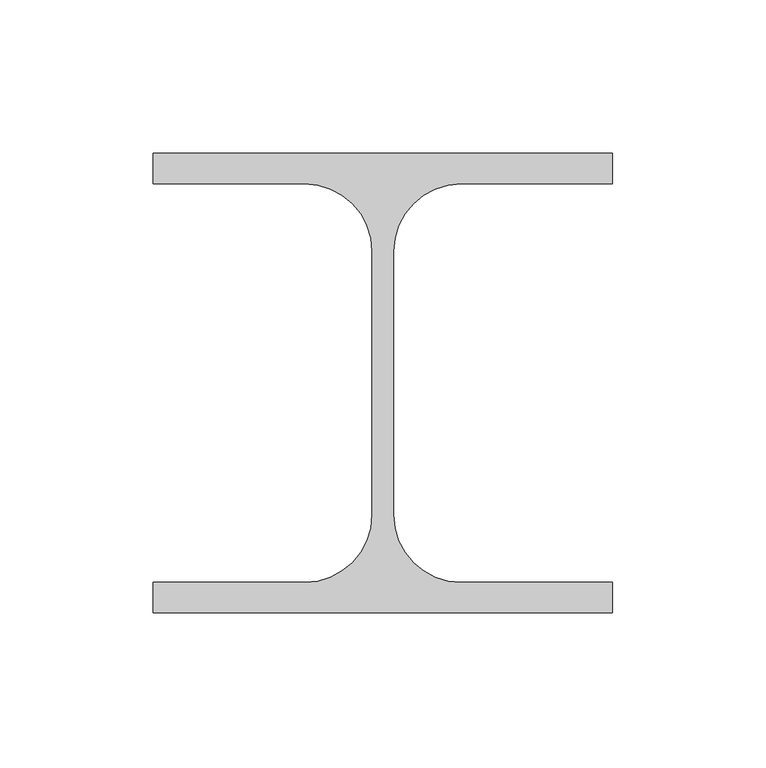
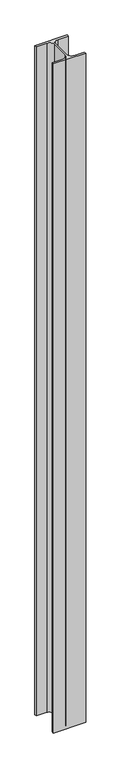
"""IFC4 building model written with IfcOpenShell, lengths in millimetres: column geometry, S柱 H型x : 階名+部材名."""

from ifc_helpers import new_model, si_unit, point, frame, frame_2d, origin, place, context, project, spatial, polyline, circle_curve, trimmed, segment, composite_curve, outline, extrude, source, transform, mapped, element, save


def column_fab59fd0(model_context):
    return source(origin(), model_context, "Body", "SweptSolid", [
        extrude(outline(composite_curve([segment(polyline([(75.0, 75.0), (75.0, 65.0), (25.5, 65.0)]), True, "CONTINUOUS"), segment(trimmed(circle_curve(frame_2d((25.5, 43.0)), 22.0), [point((25.5, 65.0))], [point((3.5, 43.0))], True, "CARTESIAN"), True, "CONTINUOUS"), segment(polyline([(3.5, 43.0), (3.5, -43.0)]), True, "CONTINUOUS"), segment(trimmed(circle_curve(frame_2d((25.5, -43.0)), 22.0), [point((3.5, -43.0))], [point((25.5, -65.0))], True, "CARTESIAN"), True, "CONTINUOUS"), segment(polyline([(25.5, -65.0), (75.0, -65.0), (75.0, -75.0), (-75.0, -75.0), (-75.0, -65.0), (-25.5, -65.0)]), True, "CONTINUOUS"), segment(trimmed(circle_curve(frame_2d((-25.5, -43.0)), 22.0), [point((-25.5, -65.0))], [point((-3.5, -43.0))], True, "CARTESIAN"), True, "CONTINUOUS"), segment(polyline([(-3.5, -43.0), (-3.5, 43.0)]), True, "CONTINUOUS"), segment(trimmed(circle_curve(frame_2d((-25.5, 43.0)), 22.0), [point((-3.5, 43.0))], [point((-25.5, 65.0))], True, "CARTESIAN"), True, "CONTINUOUS"), segment(polyline([(-25.5, 65.0), (-75.0, 65.0), (-75.0, 75.0), (75.0, 75.0)]), True, "CONTINUOUS")], self_intersect=False)), frame((0.0, 0.0, 3250.0), z_axis=(0.0, 0.0, 1.0), x_axis=(1.0, 0.0, 0.0)), (0.0, 0.0, 1.0), 3300.0),
    ])


if __name__ == "__main__":
    model = new_model("IFC4")
    model_context = context("Model", 3, world=origin())
    ifc_project = project(units=[si_unit("LENGTHUNIT", "METRE", prefix="MILLI")], contexts=[model_context])
    site = spatial("IfcSite", under=ifc_project)
    building = spatial("IfcBuilding", under=site)
    placement = place(None, origin())
    column_shape = column_fab59fd0(model_context)
    element("IfcColumn", 1, ObjectType="S柱 H型x : 階名+部材名", at=placement, inside=building, context=model_context, shape_type="MappedRepresentation", body=[
        mapped(column_shape, transform((0.0, 0.0, 0.0), x_axis=(1.0, 0.0, 0.0), y_axis=(0.0, 1.0, 0.0), z_axis=(0.0, 0.0, 1.0))),
    ])
    save(model, "model.ifc")
